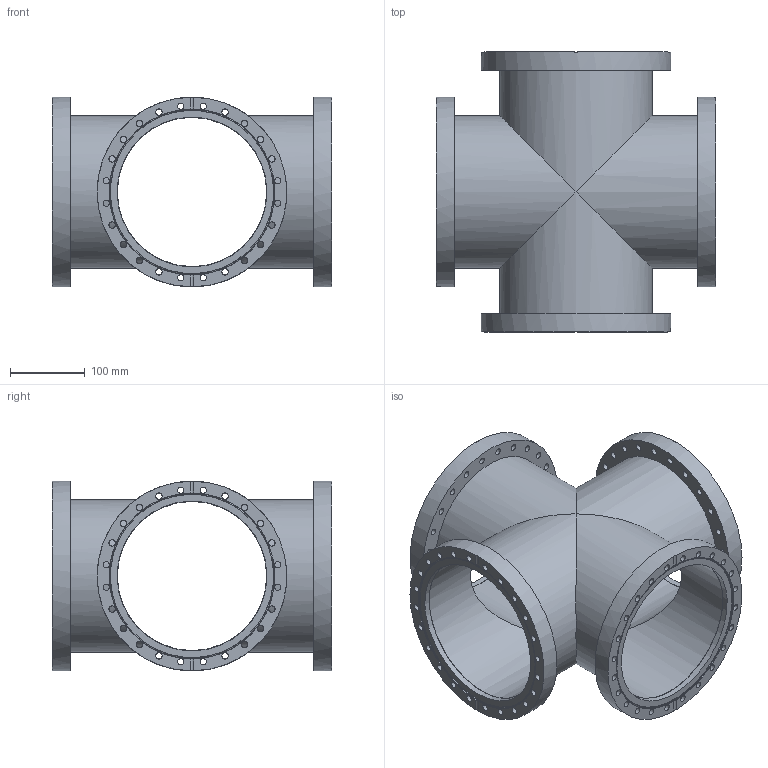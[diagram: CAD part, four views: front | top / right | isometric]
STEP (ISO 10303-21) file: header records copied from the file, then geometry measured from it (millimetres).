
FILE_DESCRIPTION( ( 'Unknown' ), '1' );
FILE_NAME( 'X:/Daten ( aktueller Bestand )/Projekte und Zeichnungen/Solid Edge/STP-Dateien/CF-Teile/7116F.stp', 'Unknown', ( 'Unknown' ), ( 'Unknown' ), 'PSStep 14.0', 'Unknown', ' ' );
FILE_SCHEMA( ( 'AUTOMOTIVE_DESIGN { 1 0 10303 214 1 1 1 1 }' ) );
Length unit declared in the file: millimetre
Products named in the file (3): Assem1; 7516F; 7116-1
Assembly tree (5 placements, depth 2):
  Assem1
    7516F  x4
    7116-1
Bounding box: 375 x 375 x 254 mm (x, y, z)
Volume: 2194283.2 mm3; surface area: 929513 mm2
Topology: 5 solids, 5 shells, 160 faces, 526 edges, 378 vertices
Faces by surface type: cylinder 128, plane 24, cone 8
Full cylindrical faces by diameter (mm): 8.4 x96, 200 x4, 200.5 x4, 204 x4, 205.5 x4, 222 x4, 254 x4
Entity records: 1936 total; most frequent: CARTESIAN_POINT 283, DIRECTION 266, ORIENTED_EDGE 168, EDGE_LOOP 142, AXIS2_PLACEMENT_3D 131, FACE_OUTER_BOUND 85, EDGE_CURVE 84, VERTEX_POINT 76
